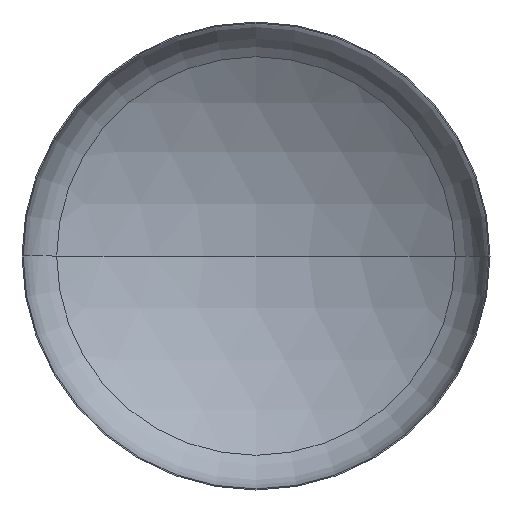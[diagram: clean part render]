
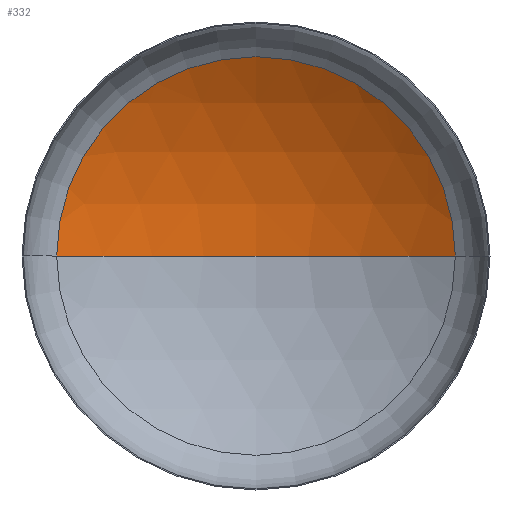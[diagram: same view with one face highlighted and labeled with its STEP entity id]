
A CAD part, front view. The second image highlights one B-rep face of the part: STEP entity #332.
In plain terms, the highlighted spherical face has radius 3200 mm.
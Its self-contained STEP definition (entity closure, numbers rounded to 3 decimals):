
#2 = ORIENTED_EDGE ( 'NONE', *, *, #167, .T. ) ;
#4 = AXIS2_PLACEMENT_3D ( 'NONE', #340, #267, #194 ) ;
#10 = AXIS2_PLACEMENT_3D ( 'NONE', #134, #389, #159 ) ;
#12 = EDGE_LOOP ( 'NONE', ( #62, #51, #2 ) ) ;
#21 = AXIS2_PLACEMENT_3D ( 'NONE', #187, #149, #150 ) ;
#40 = AXIS2_PLACEMENT_3D ( 'NONE', #199, #214, #215 ) ;
#43 = VERTEX_POINT ( 'NONE', #259 ) ;
#51 = ORIENTED_EDGE ( 'NONE', *, *, #343, .T. ) ;
#60 = VERTEX_POINT ( 'NONE', #263 ) ;
#62 = ORIENTED_EDGE ( 'NONE', *, *, #327, .F. ) ;
#79 = VERTEX_POINT ( 'NONE', #239 ) ;
#134 = CARTESIAN_POINT ( 'NONE',  ( 0., -2158.344, 0. ) ) ;
#149 = DIRECTION ( 'NONE',  ( 0., 0., 1. ) ) ;
#150 = DIRECTION ( 'NONE',  ( 1., 0., 0. ) ) ;
#159 = DIRECTION ( 'NONE',  ( -1., 0., 0. ) ) ;
#163 = CIRCLE ( 'NONE', #40, 1703.366 ) ;
#167 = EDGE_CURVE ( 'NONE', #43, #79, #163, .T. ) ;
#187 = CARTESIAN_POINT ( 'NONE',  ( 0., -2158.344, 0. ) ) ;
#194 = DIRECTION ( 'NONE',  ( -1., 0., 0. ) ) ;
#199 = CARTESIAN_POINT ( 'NONE',  ( 0., 550.631, 0. ) ) ;
#204 = SPHERICAL_SURFACE ( 'NONE', #10, 3200. ) ;
#214 = DIRECTION ( 'NONE',  ( 0., -1., 0. ) ) ;
#215 = DIRECTION ( 'NONE',  ( 1., 0., 0. ) ) ;
#239 = CARTESIAN_POINT ( 'NONE',  ( -1703.366, 550.631, 0. ) ) ;
#259 = CARTESIAN_POINT ( 'NONE',  ( 1703.366, 550.631, 0. ) ) ;
#260 = CIRCLE ( 'NONE', #4, 3200. ) ;
#263 = CARTESIAN_POINT ( 'NONE',  ( 0., 1041.656, 0. ) ) ;
#267 = DIRECTION ( 'NONE',  ( 0., 0., -1. ) ) ;
#327 = EDGE_CURVE ( 'NONE', #60, #79, #392, .T. ) ;
#332 = ADVANCED_FACE ( 'NONE', ( #341 ), #204, .F. ) ;
#340 = CARTESIAN_POINT ( 'NONE',  ( 0., -2158.344, 0. ) ) ;
#341 = FACE_OUTER_BOUND ( 'NONE', #12, .T. ) ;
#343 = EDGE_CURVE ( 'NONE', #60, #43, #260, .T. ) ;
#389 = DIRECTION ( 'NONE',  ( 0., 0., -1. ) ) ;
#392 = CIRCLE ( 'NONE', #21, 3200. ) ;
